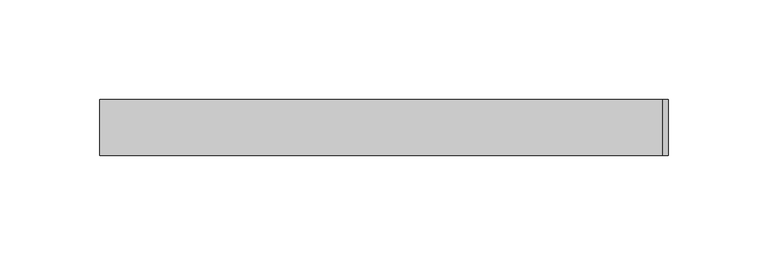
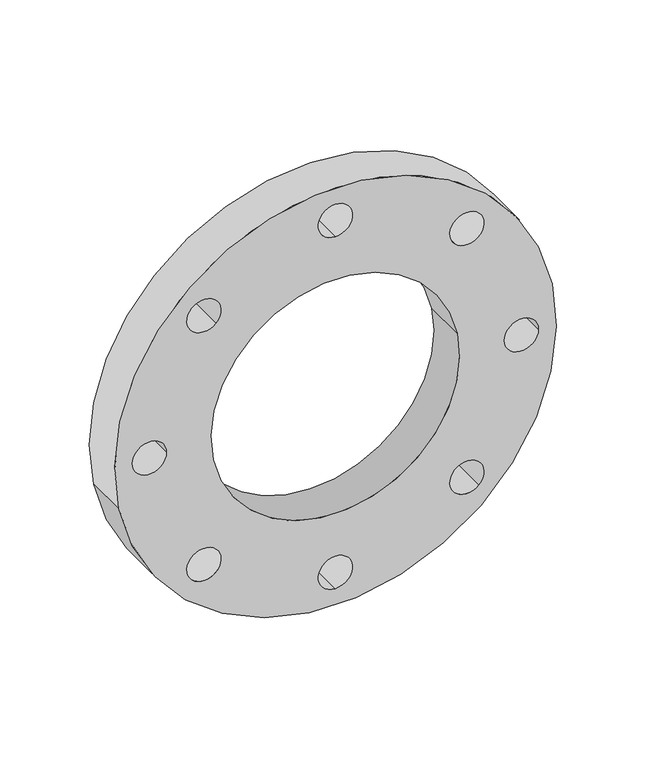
"""IFC4 building model written with IfcOpenShell, lengths in millimetres: pipe fitting geometry, 01051019 : Bridas."""

from ifc_helpers import new_model, si_unit, point, frame, frame_2d, origin, origin_2d, place, context, project, spatial, circle_curve, trimmed, segment, composite_curve, outline, extrude, source, transform, mapped, element, save


def pipe_fitting_66d10130(model_context):
    return source(origin(), model_context, "Body", "SweptSolid", [
        extrude(outline(composite_curve([segment(trimmed(circle_curve(origin_2d(), 142.5), [point((-27.8003709, -139.7619025))], [point((27.8003709, 139.7619025))], False, "CARTESIAN"), True, "CONTINUOUS"), segment(trimmed(circle_curve(origin_2d(), 142.5), [point((27.8003709, 139.7619025))], [point((-27.8003709, -139.7619025))], False, "CARTESIAN"), True, "CONTINUOUS")], self_intersect=False), holes=[composite_curve([segment(trimmed(circle_curve(origin_2d(), 80.0), [point((-15.6072258, -78.4628224))], [point((15.6072258, 78.4628224))], True, "CARTESIAN"), True, "CONTINUOUS"), segment(trimmed(circle_curve(origin_2d(), 80.0), [point((15.6072258, 78.4628224))], [point((-15.6072258, -78.4628224))], True, "CARTESIAN"), True, "CONTINUOUS")], self_intersect=False), composite_curve([segment(trimmed(circle_curve(frame_2d((0.0, -120.0)), 11.0), [point((0.0, -109.0))], [point((0.0, -131.0))], True, "CARTESIAN"), True, "CONTINUOUS"), segment(trimmed(circle_curve(frame_2d((0.0, -120.0)), 11.0), [point((0.0, -131.0))], [point((0.0, -109.0))], True, "CARTESIAN"), True, "CONTINUOUS")], self_intersect=False), composite_curve([segment(trimmed(circle_curve(frame_2d((84.8528137, -84.8528137)), 11.0), [point((77.0746391, -77.0746391))], [point((92.6309883, -92.6309883))], True, "CARTESIAN"), True, "CONTINUOUS"), segment(trimmed(circle_curve(frame_2d((84.8528137, -84.8528137)), 11.0), [point((92.6309883, -92.6309883))], [point((77.0746391, -77.0746391))], True, "CARTESIAN"), True, "CONTINUOUS")], self_intersect=False), composite_curve([segment(trimmed(circle_curve(frame_2d((-84.8528137, -84.8528137)), 11.0), [point((-77.0746391, -77.0746391))], [point((-92.6309883, -92.6309883))], True, "CARTESIAN"), True, "CONTINUOUS"), segment(trimmed(circle_curve(frame_2d((-84.8528137, -84.8528137)), 11.0), [point((-92.6309883, -92.6309883))], [point((-77.0746391, -77.0746391))], True, "CARTESIAN"), True, "CONTINUOUS")], self_intersect=False), composite_curve([segment(trimmed(circle_curve(frame_2d((-120.0, 0.0)), 11.0), [point((-109.0, 0.0))], [point((-131.0, 0.0))], True, "CARTESIAN"), True, "CONTINUOUS"), segment(trimmed(circle_curve(frame_2d((-120.0, 0.0)), 11.0), [point((-131.0, 0.0))], [point((-109.0, 0.0))], True, "CARTESIAN"), True, "CONTINUOUS")], self_intersect=False), composite_curve([segment(trimmed(circle_curve(frame_2d((-84.8528137, 84.8528137)), 11.0), [point((-77.0746391, 77.0746391))], [point((-92.6309883, 92.6309883))], True, "CARTESIAN"), True, "CONTINUOUS"), segment(trimmed(circle_curve(frame_2d((-84.8528137, 84.8528137)), 11.0), [point((-92.6309883, 92.6309883))], [point((-77.0746391, 77.0746391))], True, "CARTESIAN"), True, "CONTINUOUS")], self_intersect=False), composite_curve([segment(trimmed(circle_curve(frame_2d((0.0, 120.0)), 11.0), [point((0.0, 109.0))], [point((0.0, 131.0))], True, "CARTESIAN"), True, "CONTINUOUS"), segment(trimmed(circle_curve(frame_2d((0.0, 120.0)), 11.0), [point((0.0, 131.0))], [point((0.0, 109.0))], True, "CARTESIAN"), True, "CONTINUOUS")], self_intersect=False), composite_curve([segment(trimmed(circle_curve(frame_2d((84.8528137, 84.8528137)), 11.0), [point((77.0746391, 77.0746391))], [point((92.6309883, 92.6309883))], True, "CARTESIAN"), True, "CONTINUOUS"), segment(trimmed(circle_curve(frame_2d((84.8528137, 84.8528137)), 11.0), [point((92.6309883, 92.6309883))], [point((77.0746391, 77.0746391))], True, "CARTESIAN"), True, "CONTINUOUS")], self_intersect=False), composite_curve([segment(trimmed(circle_curve(frame_2d((120.0, 0.0)), 11.0), [point((109.0, 0.0))], [point((131.0, 0.0))], True, "CARTESIAN"), True, "CONTINUOUS"), segment(trimmed(circle_curve(frame_2d((120.0, 0.0)), 11.0), [point((131.0, 0.0))], [point((109.0, 0.0))], True, "CARTESIAN"), True, "CONTINUOUS")], self_intersect=False)]), frame((0.0, -14.0, 0.0), z_axis=(0.0, 1.0, 0.0), x_axis=(0.0, 0.0, 1.0)), (0.0, 0.0, 1.0), 28.0),
    ])


if __name__ == "__main__":
    model = new_model("IFC4")
    model_context = context("Model", 3, world=origin())
    ifc_project = project(units=[si_unit("LENGTHUNIT", "METRE", prefix="MILLI")], contexts=[model_context])
    site = spatial("IfcSite", under=ifc_project)
    building = spatial("IfcBuilding", under=site)
    placement = place(None, origin())
    pipe_fitting_shape = pipe_fitting_66d10130(model_context)
    element("IfcPipeFitting", 1, ObjectType="01051019 : Bridas", at=placement, inside=building, context=model_context, shape_type="MappedRepresentation", body=[
        mapped(pipe_fitting_shape, transform((0.0, 0.0, 0.0), x_axis=(1.0, 0.0, 0.0), y_axis=(0.0, 1.0, 0.0), z_axis=(0.0, 0.0, 1.0))),
    ])
    save(model, "model.ifc")
